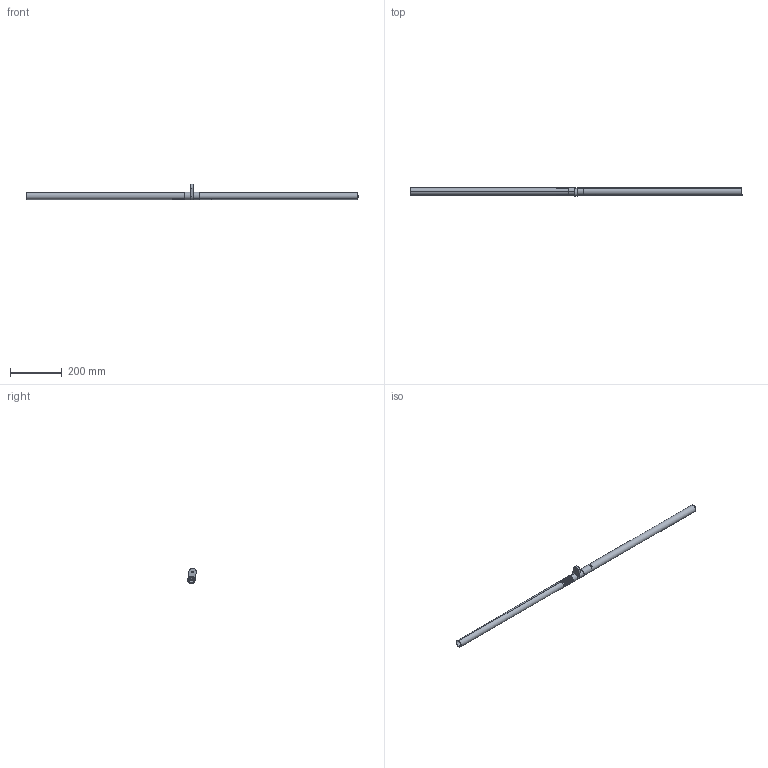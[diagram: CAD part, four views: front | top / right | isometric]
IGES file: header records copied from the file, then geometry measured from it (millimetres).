
Start section: SolidWorks IGES file using analytic representation for surfaces
Global section: file name: \\SERVER3\Design\_NEWDE~1\_DESIG~1\AAI\MODULA~1\SOLIDW~1\DEMONS~1\25DBF2~1.ASS\MODULA~1\235A3~1.COA\COAXIA~2\Threaded End Connector to Link Connector to Threaded End Connector Connection.IGS; native system: SolidWorks 2013; preprocessor: SolidWorks 2013; author: tbraun; date: 130819.131552; units: inch
Bounding box: 1279.14 x 32.91 x 60.02 mm (x, y, z)
Surface area: 232639.9 mm2 (no closed solid volume)
Topology: 0 solids, 0 shells, 498 faces, 6471 edges, 6468 vertices
Faces by surface type: revolution 340, bspline 158
